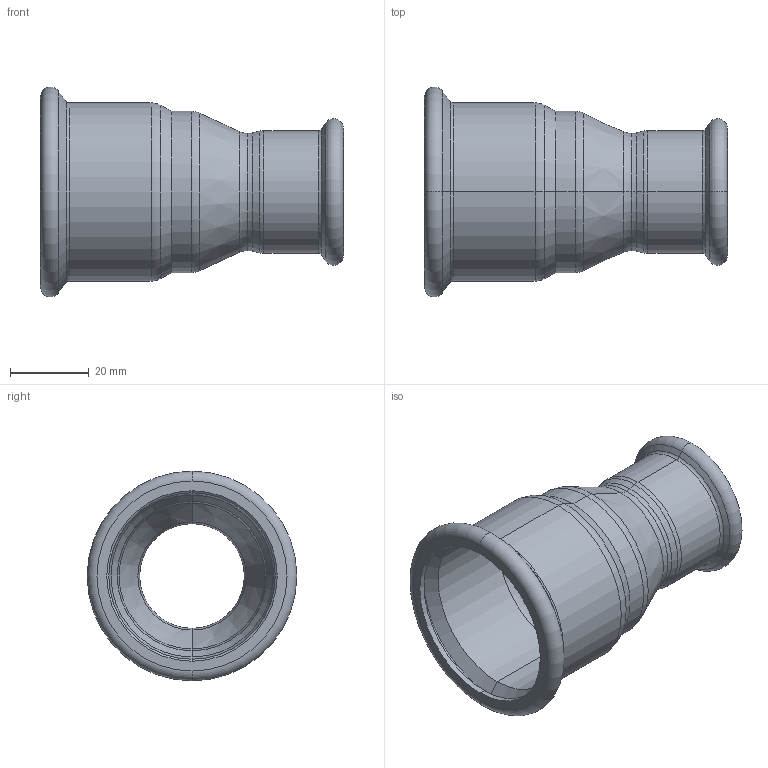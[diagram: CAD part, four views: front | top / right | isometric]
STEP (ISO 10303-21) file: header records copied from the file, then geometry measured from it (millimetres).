
FILE_DESCRIPTION (( 'STEP AP214' ), '1' );
FILE_NAME ('R422800.STEP', '2025-08-17T15:11:02', ( '' ), ( '' ), 'SwSTEP 2.0', 'SolidWorks 2020', '' );
FILE_SCHEMA (( 'AUTOMOTIVE_DESIGN' ));
Length unit declared in the file: millimetre
Products named in the file (1): R422800
Bounding box: 77 x 53.28 x 53.28 mm (x, y, z)
Volume: 16344.3 mm3; surface area: 21271.2 mm2
Topology: 1 solids, 1 shells, 76 faces, 152 edges, 80 vertices
Faces by surface type: torus 36, cone 20, cylinder 16, plane 4
Entity records: 2746 total; most frequent: DIRECTION 422, CARTESIAN_POINT 309, ORIENTED_EDGE 304, AXIS2_PLACEMENT_3D 193, EDGE_CURVE 152, CIRCLE 116, VERTEX_POINT 80, EDGE_LOOP 80
